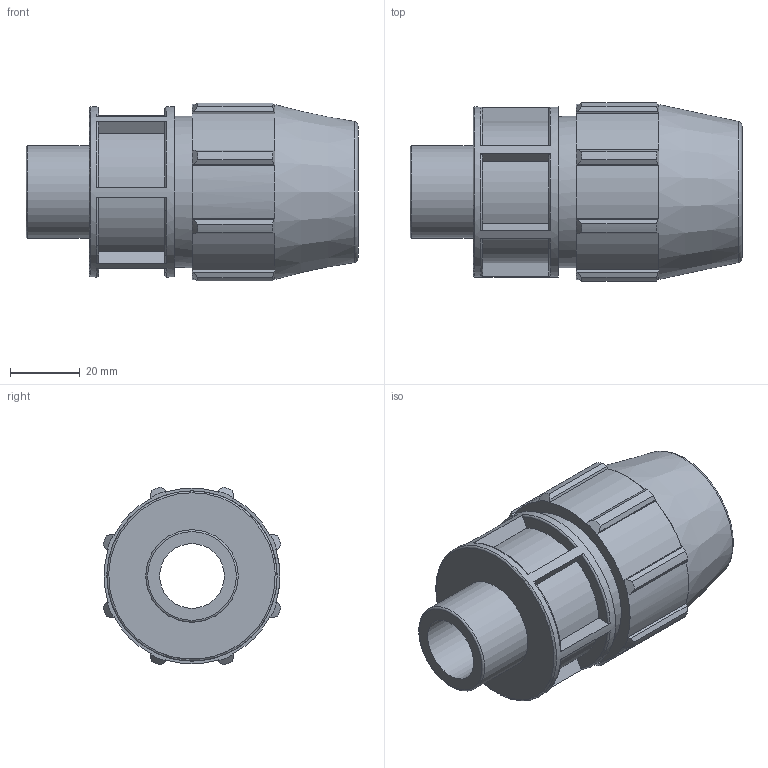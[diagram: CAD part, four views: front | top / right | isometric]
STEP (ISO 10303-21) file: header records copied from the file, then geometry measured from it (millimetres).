
FILE_DESCRIPTION(/* description */ ('PLASSON MALE ADAPTOR 3/4'''' - 3/4''''M'),/* implementation_level */ '2;1');
FILE_NAME(/* name */ 'C:\Dropbox\KIMPROJECTS-Inventor 2019\99-16-3568-Processing Inch\ASTM Compression 2021\0702M0\0702M0007007.ipt.stp',/* time_stamp */ '2021-08-26T12:30:05+03:00',/* author */ ('KIM'),/* organization */ (''),/* preprocessor_version */ 'ST-DEVELOPER v17.2',/* originating_system */ 'Autodesk Inventor 2019',/* authorisation */ '');
FILE_SCHEMA (('AUTOMOTIVE_DESIGN { 1 0 10303 214 3 1 1 }'));
Length unit declared in the file: inch
Products named in the file (1): 0702M0007007
Bounding box: 95 x 50.91 x 50.91 mm (x, y, z)
Volume: 91655.7 mm3; surface area: 26213.6 mm2
Topology: 1 solids, 1 shells, 117 faces, 327 edges, 223 vertices
Faces by surface type: plane 63, cylinder 27, torus 15, cone 12
Full cylindrical faces by diameter (mm): 18.509 x1, 26.441 x1, 26.6 x1, 43.282 x1, 48.692 x1
Entity records: 4135 total; most frequent: CARTESIAN_POINT 948, ORIENTED_EDGE 654, DIRECTION 625, EDGE_CURVE 327, AXIS2_PLACEMENT_3D 236, VERTEX_POINT 223, LINE 153, VECTOR 153
